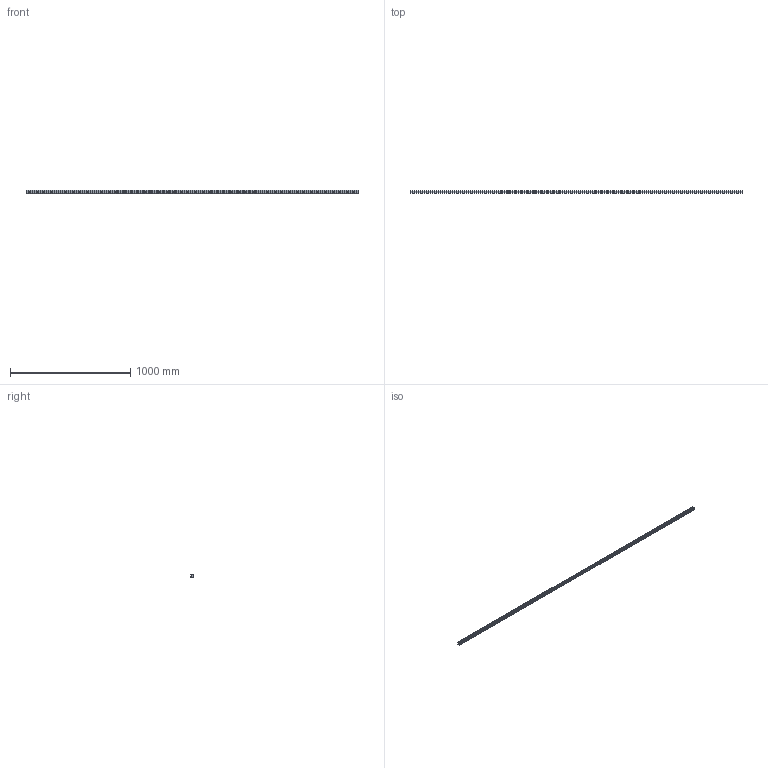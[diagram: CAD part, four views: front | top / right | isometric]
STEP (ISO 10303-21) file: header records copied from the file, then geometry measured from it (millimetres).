
FILE_DESCRIPTION (( 'STEP AP203' ), '1' );
FILE_NAME ('L1018.25R-2760.step', '2023-08-06T10:43:54', ( '' ), ( '' ), 'SwSTEP 2.0', 'SolidWorks 2019', '' );
FILE_SCHEMA (( 'CONFIG_CONTROL_DESIGN' ));
Length unit declared in the file: millimetre
Products named in the file (1): L1018.25R-2760
Bounding box: 2760 x 21.8 x 25 mm (x, y, z)
Volume: 1147851.2 mm3; surface area: 274913.1 mm2
Topology: 1 solids, 1 shells, 443 faces, 1001 edges, 560 vertices
Faces by surface type: cylinder 187, cone 184, plane 72
Entity records: 11762 total; most frequent: DIRECTION 2263, CARTESIAN_POINT 1913, ORIENTED_EDGE 1818, AXIS2_PLACEMENT_3D 910, EDGE_CURVE 909, VERTEX_POINT 560, EDGE_LOOP 535, CIRCLE 466
